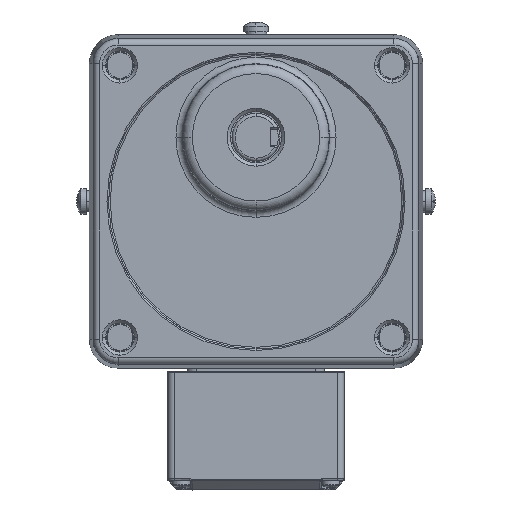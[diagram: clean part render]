
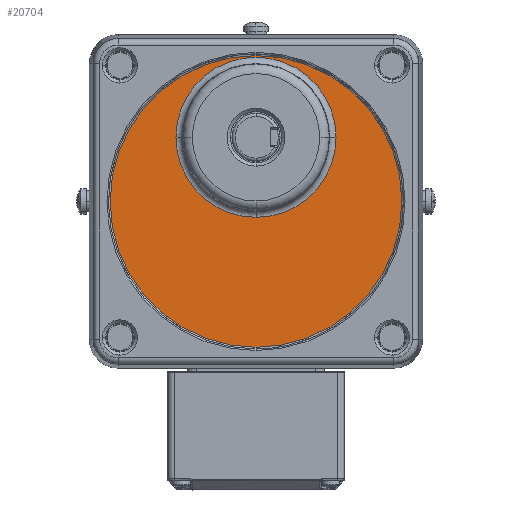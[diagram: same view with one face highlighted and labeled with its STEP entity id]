
A CAD part, left-side view. The second image highlights one B-rep face of the part: STEP entity #20704.
In plain terms, the highlighted planar face has unit normal (-1, 0, 0).
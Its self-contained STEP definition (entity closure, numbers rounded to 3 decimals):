
#316 = CARTESIAN_POINT ( 'NONE',  ( 2949.725, -773.74, -45.491 ) ) ;
#500 = VERTEX_POINT ( 'NONE', #26163 ) ;
#731 = CARTESIAN_POINT ( 'NONE',  ( 2949.725, -773.74, -20. ) ) ;
#926 = CIRCLE ( 'NONE', #15397, 24.965 ) ;
#2043 = DIRECTION ( 'NONE',  ( -1., 0., 0. ) ) ;
#3007 = ORIENTED_EDGE ( 'NONE', *, *, #27000, .F. ) ;
#4004 = AXIS2_PLACEMENT_3D ( 'NONE', #19307, #26723, #48845 ) ;
#4277 = CARTESIAN_POINT ( 'NONE',  ( 2949.725, -748.775, -20. ) ) ;
#5177 = CARTESIAN_POINT ( 'NONE',  ( 2949.725, -773.74, -20. ) ) ;
#7683 = DIRECTION ( 'NONE',  ( 0., 0., -1. ) ) ;
#8911 = AXIS2_PLACEMENT_3D ( 'NONE', #36094, #2043, #32680 ) ;
#9536 = AXIS2_PLACEMENT_3D ( 'NONE', #11935, #41166, #7683 ) ;
#10611 = DIRECTION ( 'NONE',  ( -1., 0., 0. ) ) ;
#11935 = CARTESIAN_POINT ( 'NONE',  ( 2949.725, -773.74, 0. ) ) ;
#15362 = FACE_BOUND ( 'NONE', #55774, .T. ) ;
#15397 = AXIS2_PLACEMENT_3D ( 'NONE', #46104, #24557, #24829 ) ;
#19307 = CARTESIAN_POINT ( 'NONE',  ( 2949.725, -773.74, 0. ) ) ;
#20704 = ADVANCED_FACE ( 'NONE', ( #44874, #15362 ), #23593, .T. ) ;
#23106 = AXIS2_PLACEMENT_3D ( 'NONE', #731, #10611, #50037 ) ;
#23593 = PLANE ( 'NONE',  #8911 ) ;
#24557 = DIRECTION ( 'NONE',  ( -1., 0., 0. ) ) ;
#24829 = DIRECTION ( 'NONE',  ( 0., -1., 0. ) ) ;
#25786 = EDGE_LOOP ( 'NONE', ( #41066, #26139 ) ) ;
#26139 = ORIENTED_EDGE ( 'NONE', *, *, #40206, .F. ) ;
#26163 = CARTESIAN_POINT ( 'NONE',  ( 2949.725, -773.74, 4.965 ) ) ;
#26723 = DIRECTION ( 'NONE',  ( 1., 0., 0. ) ) ;
#27000 = EDGE_CURVE ( 'NONE', #500, #30082, #51176, .T. ) ;
#29353 = CIRCLE ( 'NONE', #4004, 45.491 ) ;
#30082 = VERTEX_POINT ( 'NONE', #4277 ) ;
#30984 = ORIENTED_EDGE ( 'NONE', *, *, #46999, .F. ) ;
#31162 = CIRCLE ( 'NONE', #38401, 24.965 ) ;
#31909 = EDGE_CURVE ( 'NONE', #48433, #45069, #37608, .T. ) ;
#32680 = DIRECTION ( 'NONE',  ( 0., 0., 1. ) ) ;
#36067 = DIRECTION ( 'NONE',  ( -1., 0., 0. ) ) ;
#36094 = CARTESIAN_POINT ( 'NONE',  ( 2949.725, -773.74, 0. ) ) ;
#36822 = ORIENTED_EDGE ( 'NONE', *, *, #40103, .F. ) ;
#37608 = CIRCLE ( 'NONE', #9536, 45.491 ) ;
#38401 = AXIS2_PLACEMENT_3D ( 'NONE', #5177, #36067, #45132 ) ;
#40103 = EDGE_CURVE ( 'NONE', #30082, #51962, #31162, .T. ) ;
#40206 = EDGE_CURVE ( 'NONE', #45069, #48433, #29353, .T. ) ;
#41066 = ORIENTED_EDGE ( 'NONE', *, *, #31909, .F. ) ;
#41166 = DIRECTION ( 'NONE',  ( 1., 0., 0. ) ) ;
#43625 = CARTESIAN_POINT ( 'NONE',  ( 2949.725, -773.74, 45.491 ) ) ;
#44874 = FACE_OUTER_BOUND ( 'NONE', #25786, .T. ) ;
#45069 = VERTEX_POINT ( 'NONE', #43625 ) ;
#45132 = DIRECTION ( 'NONE',  ( 0., 1., 0. ) ) ;
#45689 = CARTESIAN_POINT ( 'NONE',  ( 2949.725, -798.705, -20. ) ) ;
#46104 = CARTESIAN_POINT ( 'NONE',  ( 2949.725, -773.74, -20. ) ) ;
#46999 = EDGE_CURVE ( 'NONE', #51962, #500, #926, .T. ) ;
#48433 = VERTEX_POINT ( 'NONE', #316 ) ;
#48845 = DIRECTION ( 'NONE',  ( 0., 0., 1. ) ) ;
#50037 = DIRECTION ( 'NONE',  ( 0., -1., 0. ) ) ;
#51176 = CIRCLE ( 'NONE', #23106, 24.965 ) ;
#51962 = VERTEX_POINT ( 'NONE', #45689 ) ;
#55774 = EDGE_LOOP ( 'NONE', ( #30984, #36822, #3007 ) ) ;
